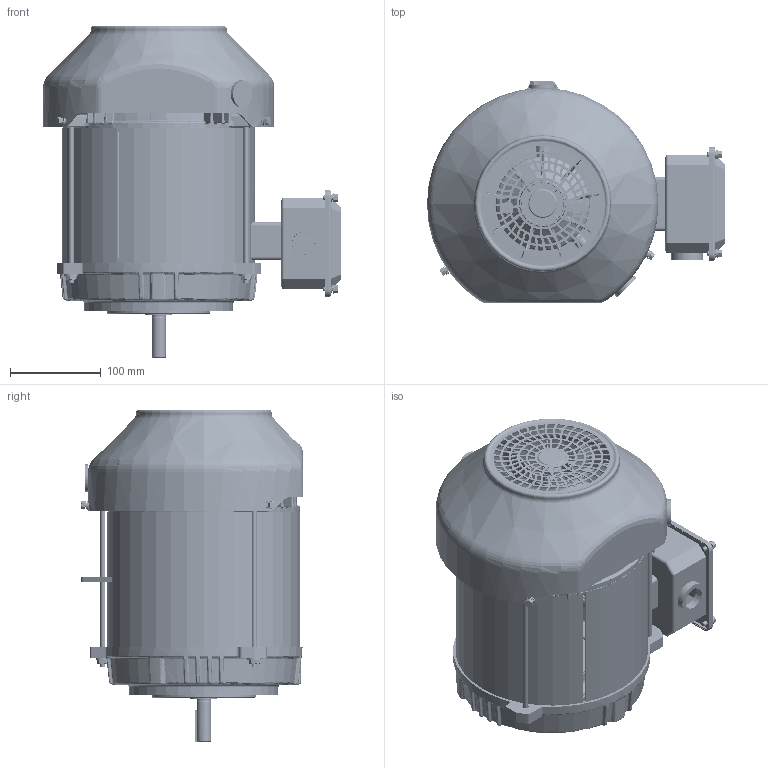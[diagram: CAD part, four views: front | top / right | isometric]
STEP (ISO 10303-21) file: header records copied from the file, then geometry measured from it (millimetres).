
FILE_DESCRIPTION (( 'STEP AP203' ), '1' );
FILE_NAME ('SS600254-100_RevB.STEP', '2021-06-29T08:22:00', ( '' ), ( '' ), 'SwSTEP 2.0', 'SolidWorks 2018', '' );
FILE_SCHEMA (( 'CONFIG_CONTROL_DESIGN' ));
Length unit declared in the file: inch
Products named in the file (1): SS600254-100_RevB
Bounding box: 328.9 x 245 x 366.48 mm (x, y, z)
Volume: 2079230.9 mm3; surface area: 991749.8 mm2
Topology: 45 solids, 45 shells, 6061 faces, 14727 edges, 8657 vertices
Faces by surface type: cylinder 2007, bspline 1720, plane 854, torus 635, sphere 440, cone 405
Entity records: 245494 total; most frequent: CARTESIAN_POINT 116680, ORIENTED_EDGE 29008, DIRECTION 25125, EDGE_CURVE 14504, AXIS2_PLACEMENT_3D 10936, VERTEX_POINT 8606, CIRCLE 6594, EDGE_LOOP 6530
